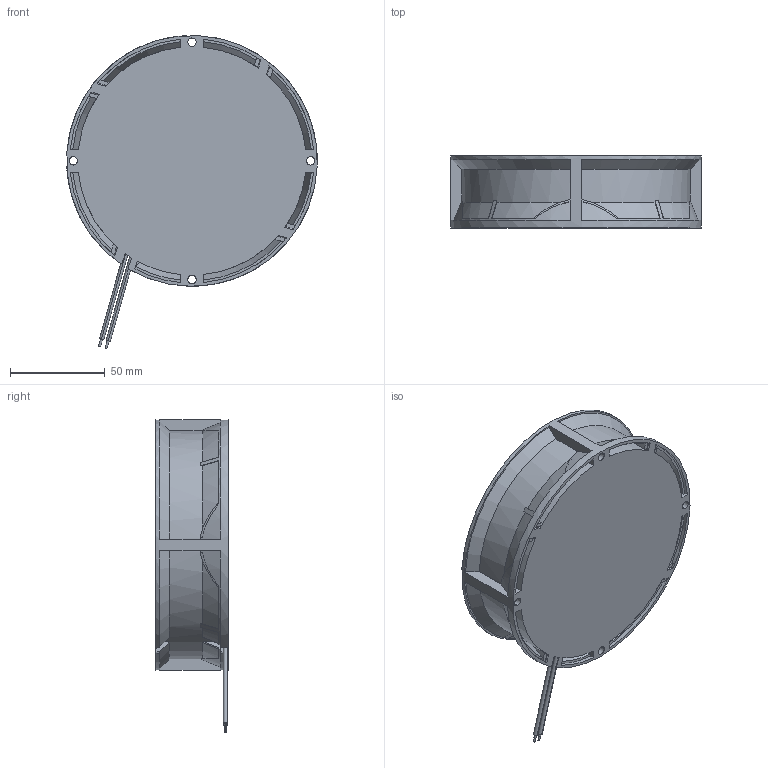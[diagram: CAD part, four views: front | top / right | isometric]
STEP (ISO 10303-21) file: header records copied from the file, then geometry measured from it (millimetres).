
FILE_DESCRIPTION((''),'2;1');
FILE_NAME('PRT0001_1_1_1_1_1_28_1_1_1','2026-07-22T09:11:53',('pc'),(''),'CREO PARAMETRIC BY PTC INC, 2018050','CREO PARAMETRIC BY PTC INC, 2018050','');
FILE_SCHEMA(('CONFIG_CONTROL_DESIGN','GEOMETRIC_VALIDATION_PROPERTIES_MIM'));
Length unit declared in the file: millimetre
Products named in the file (1): PRT0001_1_1_1_1_1_28_1_1_1
Bounding box: 131.9 x 38 x 164.63 mm (x, y, z)
Volume: 451255.5 mm3; surface area: 55449.4 mm2
Topology: 1 solids, 1 shells, 196 faces, 536 edges, 358 vertices
Faces by surface type: plane 104, cylinder 60, cone 32
Entity records: 6937 total; most frequent: CARTESIAN_POINT 1754, ORIENTED_EDGE 1072, DIRECTION 985, EDGE_CURVE 536, AXIS2_PLACEMENT_3D 374, VERTEX_POINT 358, VECTOR 237, LINE 237
